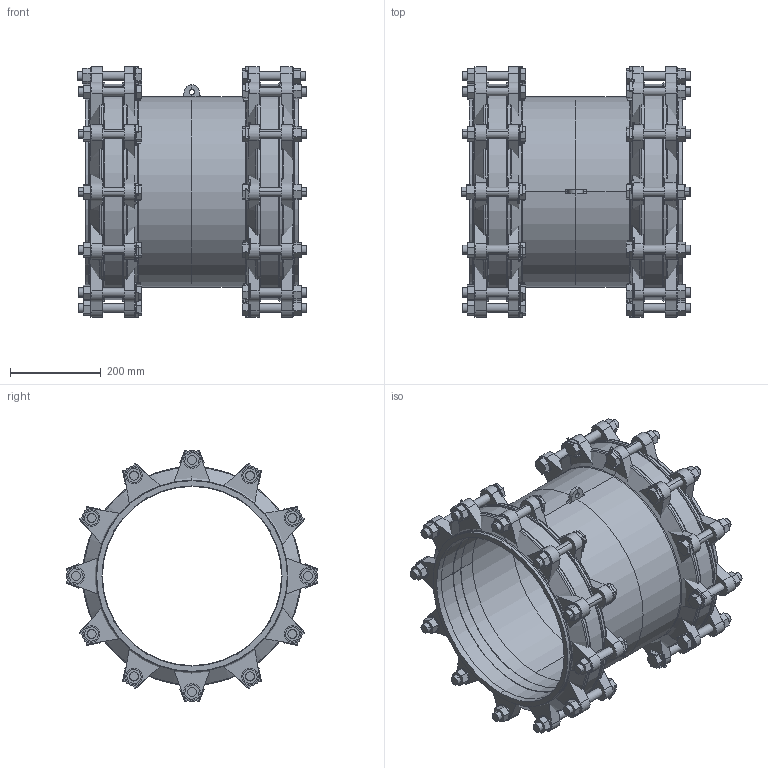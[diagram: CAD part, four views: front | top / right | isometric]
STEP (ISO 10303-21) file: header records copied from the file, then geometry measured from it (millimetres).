
FILE_DESCRIPTION(('STEP AP214'),'1');
FILE_NAME('MJ000073 DN 350.STP','2015-02-06T12:38:57',(' '),(' '),'Spatial InterOp 3D',' ',' ');
FILE_SCHEMA(('automotive_design'));
Length unit declared in the file: millimetre
Products named in the file (132): 3D-Objekt; 1; 2; 3; 4; 5; 6; 7; 8; 9; 10; 11; 12; 13; 14; 15; 16; 17; 18; 19; 20; 21; 22; 23; 24; 25; 26; 27; 28; 29; 30; 31; 32; 33; 34; 35; 36; 37; 38; 39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
Bounding box: 503 x 553.68 x 553.68 mm (x, y, z)
Volume: 15729855.8 mm3; surface area: 3319787 mm2
Topology: 132 solids, 132 shells, 1424 faces, 3260 edges, 2172 vertices
Faces by surface type: plane 1064, cylinder 320, torus 24, cone 16
Entity records: 54443 total; most frequent: DIRECTION 7112, CARTESIAN_POINT 6988, ORIENTED_EDGE 6520, EDGE_CURVE 3260, LINE 2520, VECTOR 2520, AXIS2_PLACEMENT_3D 2296, VERTEX_POINT 2172
